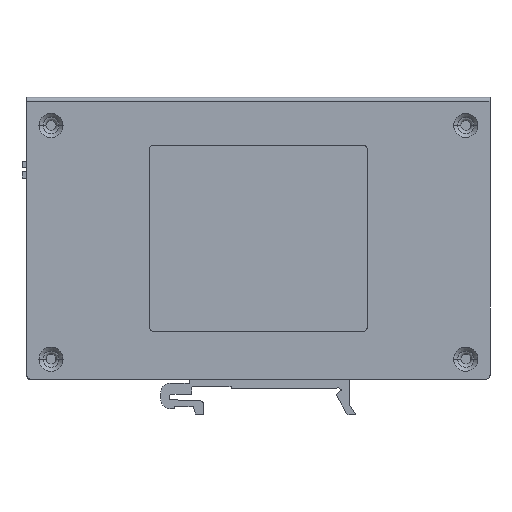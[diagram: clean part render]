
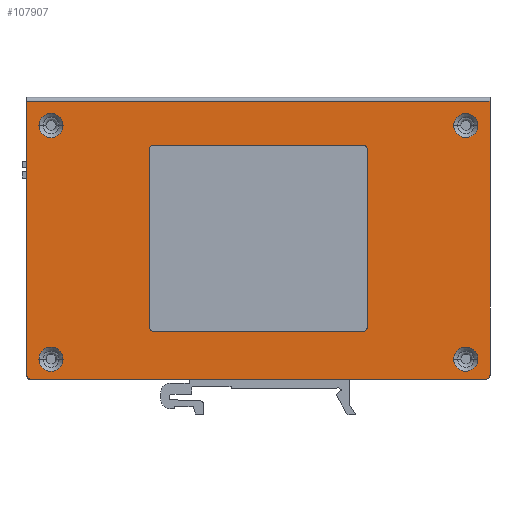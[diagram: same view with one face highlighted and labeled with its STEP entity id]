
A CAD part, left-side view. The second image highlights one B-rep face of the part: STEP entity #107907.
In plain terms, the highlighted planar face has unit normal (-1, 0, 0).
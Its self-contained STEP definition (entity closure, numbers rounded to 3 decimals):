
#105684=DIRECTION('',(0.,-1.,0.));
#105685=VECTOR('',#105684,113.);
#105686=CARTESIAN_POINT('',(-49.15,56.,-34.9));
#105687=LINE('',#105686,#105685);
#105688=CARTESIAN_POINT('',(-49.15,56.,-33.9));
#105689=DIRECTION('',(-1.,0.,0.));
#105690=DIRECTION('',(0.,1.,0.));
#105691=AXIS2_PLACEMENT_3D('',#105688,#105689,#105690);
#105693=DIRECTION('',(0.,0.,-1.));
#105694=VECTOR('',#105693,68.);
#105695=CARTESIAN_POINT('',(-49.15,57.,34.1));
#105696=LINE('',#105695,#105694);
#105697=DIRECTION('',(0.,0.,1.));
#105698=VECTOR('',#105697,68.);
#105699=CARTESIAN_POINT('',(-49.15,-58.,-33.9));
#105700=LINE('',#105699,#105698);
#105701=CARTESIAN_POINT('',(-49.15,-57.,-33.9));
#105702=DIRECTION('',(-1.,0.,0.));
#105703=DIRECTION('',(0.,0.,-1.));
#105704=AXIS2_PLACEMENT_3D('',#105701,#105702,#105703);
#105706=CARTESIAN_POINT('',(-49.15,51.,-29.9));
#105707=DIRECTION('',(1.,0.,0.));
#105708=DIRECTION('',(0.,1.,0.));
#105709=AXIS2_PLACEMENT_3D('',#105706,#105707,#105708);
#105711=CARTESIAN_POINT('',(-49.15,51.,-29.9));
#105712=DIRECTION('',(1.,0.,0.));
#105713=DIRECTION('',(0.,-1.,0.));
#105714=AXIS2_PLACEMENT_3D('',#105711,#105712,#105713);
#105716=CARTESIAN_POINT('',(-49.15,51.,28.1));
#105717=DIRECTION('',(1.,0.,0.));
#105718=DIRECTION('',(0.,1.,0.));
#105719=AXIS2_PLACEMENT_3D('',#105716,#105717,#105718);
#105721=CARTESIAN_POINT('',(-49.15,51.,28.1));
#105722=DIRECTION('',(1.,0.,0.));
#105723=DIRECTION('',(0.,-1.,0.));
#105724=AXIS2_PLACEMENT_3D('',#105721,#105722,#105723);
#105726=CARTESIAN_POINT('',(-49.15,-52.,-29.9));
#105727=DIRECTION('',(1.,0.,0.));
#105728=DIRECTION('',(0.,1.,0.));
#105729=AXIS2_PLACEMENT_3D('',#105726,#105727,#105728);
#105731=CARTESIAN_POINT('',(-49.15,-52.,-29.9));
#105732=DIRECTION('',(1.,0.,0.));
#105733=DIRECTION('',(0.,-1.,0.));
#105734=AXIS2_PLACEMENT_3D('',#105731,#105732,#105733);
#105736=CARTESIAN_POINT('',(-49.15,-52.,28.1));
#105737=DIRECTION('',(1.,0.,0.));
#105738=DIRECTION('',(0.,1.,0.));
#105739=AXIS2_PLACEMENT_3D('',#105736,#105737,#105738);
#105741=CARTESIAN_POINT('',(-49.15,-52.,28.1));
#105742=DIRECTION('',(1.,0.,0.));
#105743=DIRECTION('',(0.,-1.,0.));
#105744=AXIS2_PLACEMENT_3D('',#105741,#105742,#105743);
#105746=CARTESIAN_POINT('',(-49.15,-26.4,22.));
#105747=DIRECTION('',(1.,0.,0.));
#105748=DIRECTION('',(0.,0.,1.));
#105749=AXIS2_PLACEMENT_3D('',#105746,#105747,#105748);
#105751=DIRECTION('',(0.,-1.,0.));
#105752=VECTOR('',#105751,51.8);
#105753=CARTESIAN_POINT('',(-49.15,25.4,23.2));
#105754=LINE('',#105753,#105752);
#105755=CARTESIAN_POINT('',(-49.15,25.4,22.));
#105756=DIRECTION('',(1.,0.,0.));
#105757=DIRECTION('',(0.,1.,0.));
#105758=AXIS2_PLACEMENT_3D('',#105755,#105756,#105757);
#105760=DIRECTION('',(0.,0.,1.));
#105761=VECTOR('',#105760,43.8);
#105762=CARTESIAN_POINT('',(-49.15,26.6,-21.8));
#105763=LINE('',#105762,#105761);
#105764=CARTESIAN_POINT('',(-49.15,25.4,-21.8));
#105765=DIRECTION('',(1.,0.,0.));
#105766=DIRECTION('',(0.,0.,-1.));
#105767=AXIS2_PLACEMENT_3D('',#105764,#105765,#105766);
#105769=DIRECTION('',(0.,1.,0.));
#105770=VECTOR('',#105769,51.8);
#105771=CARTESIAN_POINT('',(-49.15,-26.4,-23.));
#105772=LINE('',#105771,#105770);
#105773=CARTESIAN_POINT('',(-49.15,-26.4,-21.8));
#105774=DIRECTION('',(1.,0.,0.));
#105775=DIRECTION('',(0.,-1.,0.));
#105776=AXIS2_PLACEMENT_3D('',#105773,#105774,#105775);
#105778=DIRECTION('',(0.,0.,-1.));
#105779=VECTOR('',#105778,43.8);
#105780=CARTESIAN_POINT('',(-49.15,-27.6,22.));
#105781=LINE('',#105780,#105779);
#105798=DIRECTION('',(0.,-1.,0.));
#105799=VECTOR('',#105798,115.);
#105800=CARTESIAN_POINT('',(-49.15,57.,34.1));
#105801=LINE('',#105800,#105799);
#106880=CARTESIAN_POINT('',(-49.15,-58.,34.1));
#106881=VERTEX_POINT('',#106880);
#106890=CARTESIAN_POINT('',(-49.15,56.,-34.9));
#106891=CARTESIAN_POINT('',(-49.15,-57.,-34.9));
#106892=VERTEX_POINT('',#106890);
#106893=VERTEX_POINT('',#106891);
#106894=CARTESIAN_POINT('',(-49.15,57.,34.1));
#106895=VERTEX_POINT('',#106894);
#106906=CARTESIAN_POINT('',(-49.15,54.,-29.9));
#106907=CARTESIAN_POINT('',(-49.15,48.,-29.9));
#106908=VERTEX_POINT('',#106906);
#106909=VERTEX_POINT('',#106907);
#106910=CARTESIAN_POINT('',(-49.15,-58.,-33.9));
#106911=VERTEX_POINT('',#106910);
#106912=CARTESIAN_POINT('',(-49.15,57.,-33.9));
#106913=VERTEX_POINT('',#106912);
#106930=CARTESIAN_POINT('',(-49.15,54.,28.1));
#106931=CARTESIAN_POINT('',(-49.15,48.,28.1));
#106932=VERTEX_POINT('',#106930);
#106933=VERTEX_POINT('',#106931);
#106952=CARTESIAN_POINT('',(-49.15,-49.,-29.9));
#106953=CARTESIAN_POINT('',(-49.15,-55.,-29.9));
#106954=VERTEX_POINT('',#106952);
#106955=VERTEX_POINT('',#106953);
#106968=CARTESIAN_POINT('',(-49.15,-49.,28.1));
#106969=CARTESIAN_POINT('',(-49.15,-55.,28.1));
#106970=VERTEX_POINT('',#106968);
#106971=VERTEX_POINT('',#106969);
#106990=CARTESIAN_POINT('',(-49.15,-26.4,23.2));
#106991=CARTESIAN_POINT('',(-49.15,-27.6,22.));
#106992=VERTEX_POINT('',#106990);
#106993=VERTEX_POINT('',#106991);
#107012=CARTESIAN_POINT('',(-49.15,-27.6,-21.8));
#107013=VERTEX_POINT('',#107012);
#107014=CARTESIAN_POINT('',(-49.15,25.4,23.2));
#107015=VERTEX_POINT('',#107014);
#107040=CARTESIAN_POINT('',(-49.15,-26.4,-23.));
#107041=VERTEX_POINT('',#107040);
#107042=CARTESIAN_POINT('',(-49.15,26.6,22.));
#107043=VERTEX_POINT('',#107042);
#107068=CARTESIAN_POINT('',(-49.15,25.4,-23.));
#107069=VERTEX_POINT('',#107068);
#107072=CARTESIAN_POINT('',(-49.15,26.6,-21.8));
#107073=VERTEX_POINT('',#107072);
#107848=CARTESIAN_POINT('',(-49.15,-58.,34.1));
#107849=DIRECTION('',(1.,0.,0.));
#107850=DIRECTION('',(0.,-1.,0.));
#107851=AXIS2_PLACEMENT_3D('',#107848,#107849,#107850);
#107852=PLANE('',#107851);
#107854=ORIENTED_EDGE('',*,*,#107853,.F.);
#107856=ORIENTED_EDGE('',*,*,#107855,.F.);
#107857=ORIENTED_EDGE('',*,*,#107839,.F.);
#107859=ORIENTED_EDGE('',*,*,#107858,.T.);
#107860=ORIENTED_EDGE('',*,*,#107415,.F.);
#107862=ORIENTED_EDGE('',*,*,#107861,.F.);
#107863=EDGE_LOOP('',(#107854,#107856,#107857,#107859,#107860,#107862));
#107864=FACE_OUTER_BOUND('',#107863,.F.);
#107866=ORIENTED_EDGE('',*,*,#107865,.F.);
#107868=ORIENTED_EDGE('',*,*,#107867,.F.);
#107869=EDGE_LOOP('',(#107866,#107868));
#107870=FACE_BOUND('',#107869,.F.);
#107872=ORIENTED_EDGE('',*,*,#107871,.F.);
#107874=ORIENTED_EDGE('',*,*,#107873,.F.);
#107875=EDGE_LOOP('',(#107872,#107874));
#107876=FACE_BOUND('',#107875,.F.);
#107878=ORIENTED_EDGE('',*,*,#107877,.F.);
#107880=ORIENTED_EDGE('',*,*,#107879,.F.);
#107881=EDGE_LOOP('',(#107878,#107880));
#107882=FACE_BOUND('',#107881,.F.);
#107884=ORIENTED_EDGE('',*,*,#107883,.F.);
#107886=ORIENTED_EDGE('',*,*,#107885,.F.);
#107887=EDGE_LOOP('',(#107884,#107886));
#107888=FACE_BOUND('',#107887,.F.);
#107890=ORIENTED_EDGE('',*,*,#107889,.F.);
#107892=ORIENTED_EDGE('',*,*,#107891,.F.);
#107894=ORIENTED_EDGE('',*,*,#107893,.F.);
#107896=ORIENTED_EDGE('',*,*,#107895,.F.);
#107898=ORIENTED_EDGE('',*,*,#107897,.F.);
#107900=ORIENTED_EDGE('',*,*,#107899,.F.);
#107902=ORIENTED_EDGE('',*,*,#107901,.F.);
#107904=ORIENTED_EDGE('',*,*,#107903,.F.);
#107905=EDGE_LOOP('',(#107890,#107892,#107894,#107896,#107898,#107900,#107902,
#107904));
#107906=FACE_BOUND('',#107905,.F.);
#107907=ADVANCED_FACE('',(#107864,#107870,#107876,#107882,#107888,#107906),
#107852,.F.);
#105692=CIRCLE('',#105691,1.);
#105705=CIRCLE('',#105704,1.);
#105710=CIRCLE('',#105709,3.);
#105715=CIRCLE('',#105714,3.);
#105720=CIRCLE('',#105719,3.);
#105725=CIRCLE('',#105724,3.);
#105730=CIRCLE('',#105729,3.);
#105735=CIRCLE('',#105734,3.);
#105740=CIRCLE('',#105739,3.);
#105745=CIRCLE('',#105744,3.);
#105750=CIRCLE('',#105749,1.2);
#105759=CIRCLE('',#105758,1.2);
#105768=CIRCLE('',#105767,1.2);
#105777=CIRCLE('',#105776,1.2);
#107415=EDGE_CURVE('',#106911,#106881,#105700,.T.);
#107839=EDGE_CURVE('',#106895,#106913,#105696,.T.);
#107853=EDGE_CURVE('',#106892,#106893,#105687,.T.);
#107855=EDGE_CURVE('',#106913,#106892,#105692,.T.);
#107858=EDGE_CURVE('',#106895,#106881,#105801,.T.);
#107861=EDGE_CURVE('',#106893,#106911,#105705,.T.);
#107865=EDGE_CURVE('',#106908,#106909,#105710,.T.);
#107867=EDGE_CURVE('',#106909,#106908,#105715,.T.);
#107871=EDGE_CURVE('',#106932,#106933,#105720,.T.);
#107873=EDGE_CURVE('',#106933,#106932,#105725,.T.);
#107877=EDGE_CURVE('',#106954,#106955,#105730,.T.);
#107879=EDGE_CURVE('',#106955,#106954,#105735,.T.);
#107883=EDGE_CURVE('',#106970,#106971,#105740,.T.);
#107885=EDGE_CURVE('',#106971,#106970,#105745,.T.);
#107889=EDGE_CURVE('',#106992,#106993,#105750,.T.);
#107891=EDGE_CURVE('',#107015,#106992,#105754,.T.);
#107893=EDGE_CURVE('',#107043,#107015,#105759,.T.);
#107895=EDGE_CURVE('',#107073,#107043,#105763,.T.);
#107897=EDGE_CURVE('',#107069,#107073,#105768,.T.);
#107899=EDGE_CURVE('',#107041,#107069,#105772,.T.);
#107901=EDGE_CURVE('',#107013,#107041,#105777,.T.);
#107903=EDGE_CURVE('',#106993,#107013,#105781,.T.);
